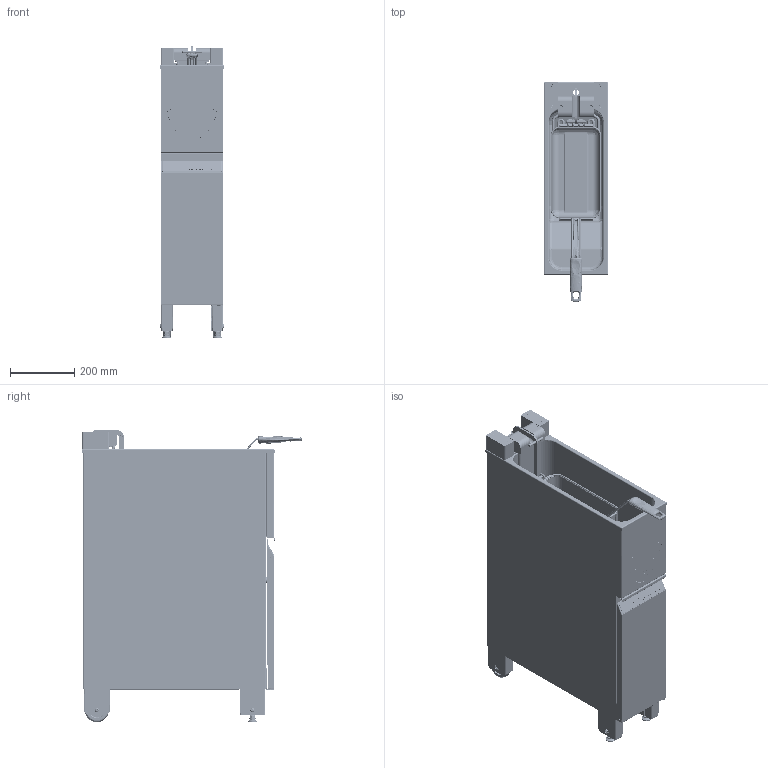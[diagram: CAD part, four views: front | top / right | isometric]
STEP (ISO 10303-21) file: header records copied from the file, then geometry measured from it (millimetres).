
FILE_DESCRIPTION(/* description */ (''),/* implementation_level */ '2;1');
FILE_NAME(/* name */ 'CORE SMART 200',/* time_stamp */ '2025-10-22T13:15:55+02:00',/* author */ (''),/* organization */ (''),/* preprocessor_version */ 'ST-DEVELOPER v19.2',/* originating_system */ 'Rhino 8.23',/* authorisation */ '');
FILE_SCHEMA (('CONFIG_CONTROL_DESIGN'));
Products named in the file (1): Document
Bounding box: 200.8 x 684.84 x 910.4 mm (x, y, z)
Volume: 3646778.1 mm3; surface area: 6331417.8 mm2
Topology: 146 solids, 151 shells, 5664 faces, 14454 edges, 9123 vertices
Faces by surface type: plane 2431, cylinder 1900, bspline 1333
Full cylindrical faces by diameter (mm): 27 x1
Entity records: 284046 total; most frequent: CARTESIAN_POINT 167503, ORIENTED_EDGE 28768, EDGE_CURVE 14414, DIRECTION 13349, B_SPLINE_CURVE_WITH_KNOTS 9595, VERTEX_POINT 9120, AXIS2_PLACEMENT_3D 8840, EDGE_LOOP 6301
